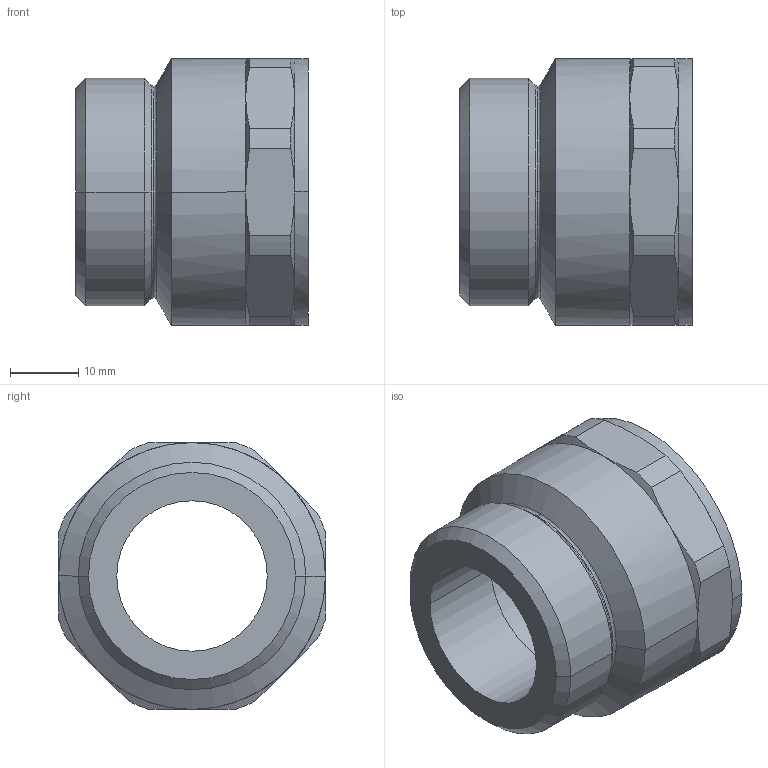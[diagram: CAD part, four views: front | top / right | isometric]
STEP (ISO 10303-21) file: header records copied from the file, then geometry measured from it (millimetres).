
FILE_DESCRIPTION((''),'2;1');
FILE_NAME('G:\BIR\Pajchrowski\projekty\8000 models\4370g\4370g STEP\4370g_1-1.stp','2006-04-28T10:05:17',('pajchrowski'),(''),'Autodesk Inventor 8','Autodesk Inventor 8','');
FILE_SCHEMA(('AUTOMOTIVE_DESIGN { 1 0 10303 214 1 1 1 1 }'));
Length unit declared in the file: millimetre
Products named in the file (1): 4370g_1-1
Bounding box: 34 x 39 x 39 mm (x, y, z)
Volume: 16565.9 mm3; surface area: 8187.1 mm2
Topology: 1 solids, 1 shells, 58 faces, 134 edges, 78 vertices
Faces by surface type: cone 26, cylinder 18, plane 10, bspline 4
Entity records: 1787 total; most frequent: CARTESIAN_POINT 511, DIRECTION 278, ORIENTED_EDGE 268, EDGE_CURVE 134, AXIS2_PLACEMENT_3D 121, VERTEX_POINT 78, CIRCLE 66, EDGE_LOOP 60
